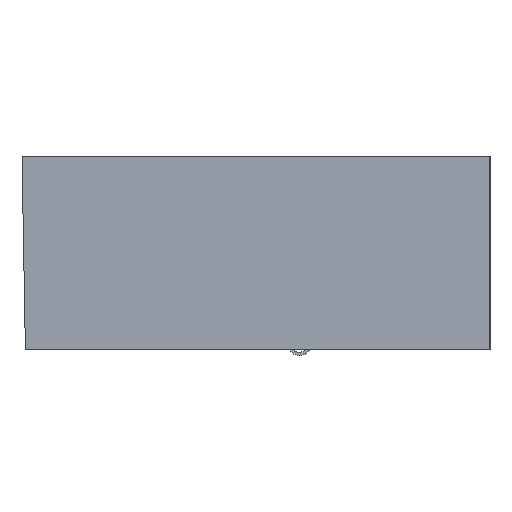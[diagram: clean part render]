
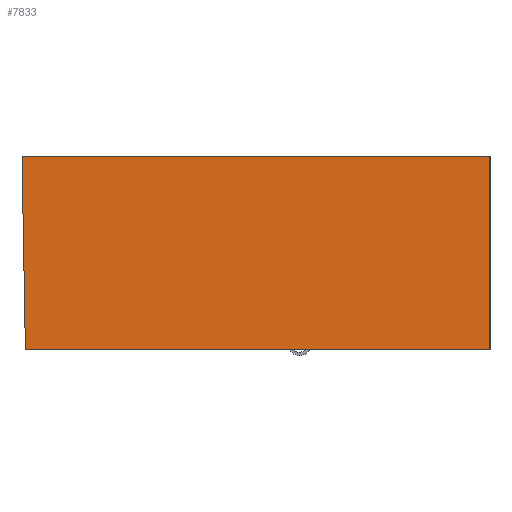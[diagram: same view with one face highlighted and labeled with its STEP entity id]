
A CAD part, left-side view. The second image highlights one B-rep face of the part: STEP entity #7833.
In plain terms, the highlighted planar face has unit normal (-1, 0, -0.018).
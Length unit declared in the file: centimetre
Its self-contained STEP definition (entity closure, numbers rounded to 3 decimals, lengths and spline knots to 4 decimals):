
#437=LINE($,#19641,#1160);
#463=LINE($,#19725,#1186);
#464=LINE($,#19728,#1187);
#465=LINE($,#19729,#1188);
#1160=VECTOR($,#9246,0.6801);
#1186=VECTOR($,#9302,1.632);
#1187=VECTOR($,#9305,0.6802);
#1188=VECTOR($,#9306,1.6439);
#1764=PLANE($,#8249);
#2091=FACE_OUTER_BOUND($,#2490,.T.);
#2490=EDGE_LOOP($,(#6711,#6712,#6713,#6714));
#3717=VERTEX_POINT($,#19638);
#3718=VERTEX_POINT($,#19640);
#3746=VERTEX_POINT($,#19716);
#3750=VERTEX_POINT($,#19727);
#4758=EDGE_CURVE($,#3717,#3718,#437,.T.);
#4795=EDGE_CURVE($,#3718,#3746,#463,.T.);
#4796=EDGE_CURVE($,#3750,#3746,#464,.T.);
#4797=EDGE_CURVE($,#3750,#3717,#465,.T.);
#6711=ORIENTED_EDGE($,*,*,#4796,.T.);
#6712=ORIENTED_EDGE($,*,*,#4795,.F.);
#6713=ORIENTED_EDGE($,*,*,#4758,.F.);
#6714=ORIENTED_EDGE($,*,*,#4797,.F.);
#7833=ADVANCED_FACE($,(#2091),#1764,.T.);
#8249=AXIS2_PLACEMENT_3D($,#19726,#9303,#9304);
#9246=DIRECTION($,(0.017,0.,-1.));
#9302=DIRECTION($,(0.,1.,0.));
#9303=DIRECTION('center_axis',(-1.,0.,-0.017));
#9304=DIRECTION('ref_axis',(0.,-1.,0.));
#9305=DIRECTION($,(0.017,-0.017,-1.));
#9306=DIRECTION($,(0.,-1.,0.));
#19638=CARTESIAN_POINT('',(-1.1869,-2.6389,0.));
#19640=CARTESIAN_POINT('',(-1.175,-2.6389,-0.68));
#19641=CARTESIAN_POINT($,(-1.175,-2.6389,-0.68));
#19716=CARTESIAN_POINT('',(-1.175,-1.0069,-0.68));
#19725=CARTESIAN_POINT($,(-1.175,-2.6269,-0.68));
#19726=CARTESIAN_POINT('Origin',(-1.175,-0.9679,-0.68));
#19727=CARTESIAN_POINT('',(-1.1869,-0.995,0.));
#19728=CARTESIAN_POINT($,(-1.1869,-0.995,0.));
#19729=CARTESIAN_POINT($,(-1.1869,-0.995,0.));
